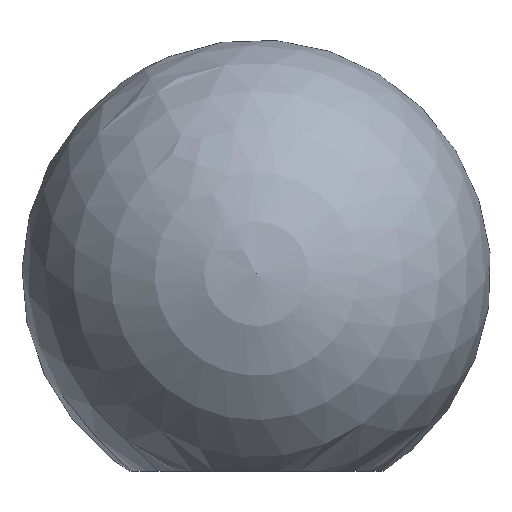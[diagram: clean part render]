
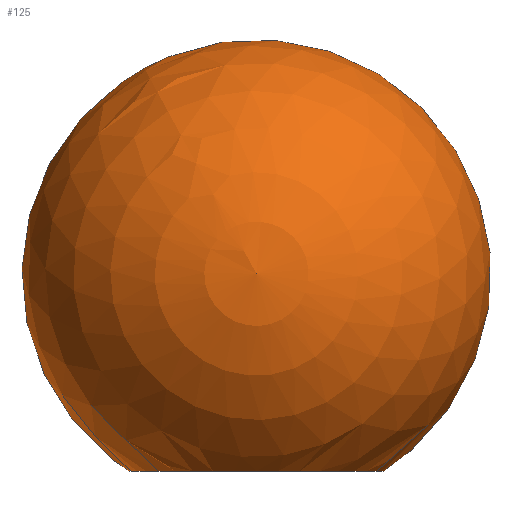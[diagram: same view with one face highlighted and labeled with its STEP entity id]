
A CAD part, top view. The second image highlights one B-rep face of the part: STEP entity #125.
In plain terms, the highlighted spherical face has radius 25 mm.
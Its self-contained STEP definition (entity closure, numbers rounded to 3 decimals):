
#11 = VERTEX_POINT ( 'NONE', #12 ) ;
#12 = CARTESIAN_POINT ( 'NONE',  ( 0., 0., -13.565 ) ) ;
#23 = AXIS2_PLACEMENT_3D ( 'NONE', #166, #67, #63 ) ;
#48 = EDGE_LOOP ( 'NONE', ( #162 ) ) ;
#58 = SPHERICAL_SURFACE ( 'NONE', #68, 25. ) ;
#63 = DIRECTION ( 'NONE',  ( 0., 0., -1. ) ) ;
#67 = DIRECTION ( 'NONE',  ( 0., -1., 0. ) ) ;
#68 = AXIS2_PLACEMENT_3D ( 'NONE', #171, #115, #120 ) ;
#88 = CIRCLE ( 'NONE', #23, 13.565 ) ;
#115 = DIRECTION ( 'NONE',  ( 0., 0., 1. ) ) ;
#120 = DIRECTION ( 'NONE',  ( 1., 0., 0. ) ) ;
#125 = ADVANCED_FACE ( 'NONE', ( #158 ), #58, .T. ) ;
#132 = EDGE_CURVE ( 'NONE', #11, #11, #88, .T. ) ;
#158 = FACE_OUTER_BOUND ( 'NONE', #48, .T. ) ;
#162 = ORIENTED_EDGE ( 'NONE', *, *, #132, .F. ) ;
#166 = CARTESIAN_POINT ( 'NONE',  ( 0., 0., 0. ) ) ;
#171 = CARTESIAN_POINT ( 'NONE',  ( 0., 21., 0. ) ) ;
